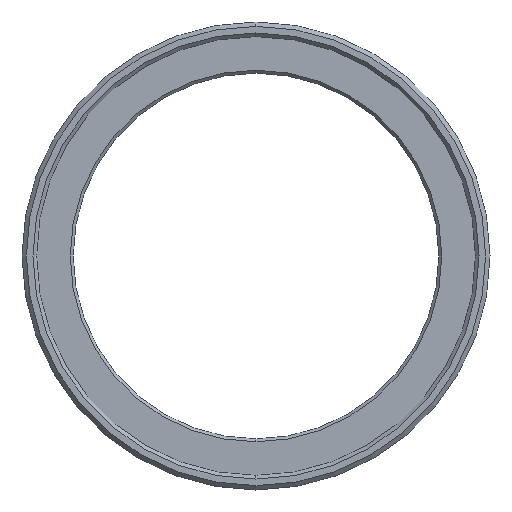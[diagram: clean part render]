
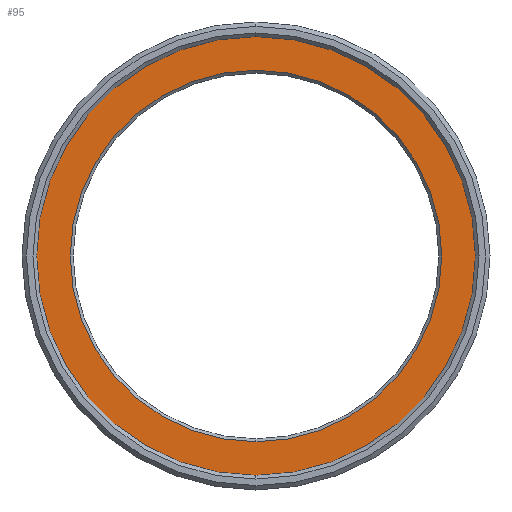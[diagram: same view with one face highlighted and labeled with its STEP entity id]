
A CAD part, left-side view. The second image highlights one B-rep face of the part: STEP entity #95.
In plain terms, the highlighted planar face has unit normal (-1, 0, 0).
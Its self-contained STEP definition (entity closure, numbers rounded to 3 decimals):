
#4 = DIRECTION ( 'NONE',  ( 1., 0., 0. ) ) ;
#20 = CARTESIAN_POINT ( 'NONE',  ( -2.5, 0., 0. ) ) ;
#49 = EDGE_CURVE ( 'NONE', #889, #185, #369, .T. ) ;
#57 = DIRECTION ( 'NONE',  ( 0., 0., -1. ) ) ;
#83 = CARTESIAN_POINT ( 'NONE',  ( -2.5, 0., 0. ) ) ;
#88 = EDGE_CURVE ( 'NONE', #740, #332, #440, .T. ) ;
#90 = PLANE ( 'NONE',  #717 ) ;
#95 = ADVANCED_FACE ( 'NONE', ( #219, #159 ), #90, .T. ) ;
#132 = CARTESIAN_POINT ( 'NONE',  ( -2.5, 0., 0. ) ) ;
#157 = DIRECTION ( 'NONE',  ( 0., 0., -1. ) ) ;
#159 = FACE_OUTER_BOUND ( 'NONE', #173, .T. ) ;
#173 = EDGE_LOOP ( 'NONE', ( #415, #174 ) ) ;
#174 = ORIENTED_EDGE ( 'NONE', *, *, #450, .F. ) ;
#183 = DIRECTION ( 'NONE',  ( 1., 0., 0. ) ) ;
#185 = VERTEX_POINT ( 'NONE', #299 ) ;
#195 = AXIS2_PLACEMENT_3D ( 'NONE', #83, #715, #157 ) ;
#219 = FACE_BOUND ( 'NONE', #732, .T. ) ;
#272 = CIRCLE ( 'NONE', #527, 15.25 ) ;
#294 = AXIS2_PLACEMENT_3D ( 'NONE', #132, #4, #906 ) ;
#299 = CARTESIAN_POINT ( 'NONE',  ( -2.5, 0., -12.7 ) ) ;
#322 = ORIENTED_EDGE ( 'NONE', *, *, #751, .T. ) ;
#332 = VERTEX_POINT ( 'NONE', #604 ) ;
#361 = DIRECTION ( 'NONE',  ( 0., 0., 1. ) ) ;
#369 = CIRCLE ( 'NONE', #294, 12.7 ) ;
#374 = CARTESIAN_POINT ( 'NONE',  ( -2.5, 15.25, 0. ) ) ;
#411 = DIRECTION ( 'NONE',  ( 1., 0., 0. ) ) ;
#415 = ORIENTED_EDGE ( 'NONE', *, *, #88, .F. ) ;
#440 = CIRCLE ( 'NONE', #195, 15.25 ) ;
#441 = DIRECTION ( 'NONE',  ( 0., 0., -1. ) ) ;
#450 = EDGE_CURVE ( 'NONE', #332, #740, #272, .T. ) ;
#497 = CARTESIAN_POINT ( 'NONE',  ( -2.5, 0., 12.7 ) ) ;
#527 = AXIS2_PLACEMENT_3D ( 'NONE', #20, #183, #441 ) ;
#596 = ORIENTED_EDGE ( 'NONE', *, *, #49, .T. ) ;
#604 = CARTESIAN_POINT ( 'NONE',  ( -2.5, 0., 15.25 ) ) ;
#646 = AXIS2_PLACEMENT_3D ( 'NONE', #883, #411, #57 ) ;
#684 = CARTESIAN_POINT ( 'NONE',  ( -2.5, 0., -15.25 ) ) ;
#715 = DIRECTION ( 'NONE',  ( 1., 0., 0. ) ) ;
#716 = CIRCLE ( 'NONE', #646, 12.7 ) ;
#717 = AXIS2_PLACEMENT_3D ( 'NONE', #374, #852, #361 ) ;
#732 = EDGE_LOOP ( 'NONE', ( #596, #322 ) ) ;
#740 = VERTEX_POINT ( 'NONE', #684 ) ;
#751 = EDGE_CURVE ( 'NONE', #185, #889, #716, .T. ) ;
#852 = DIRECTION ( 'NONE',  ( -1., 0., 0. ) ) ;
#883 = CARTESIAN_POINT ( 'NONE',  ( -2.5, 0., 0. ) ) ;
#889 = VERTEX_POINT ( 'NONE', #497 ) ;
#906 = DIRECTION ( 'NONE',  ( 0., 0., -1. ) ) ;
